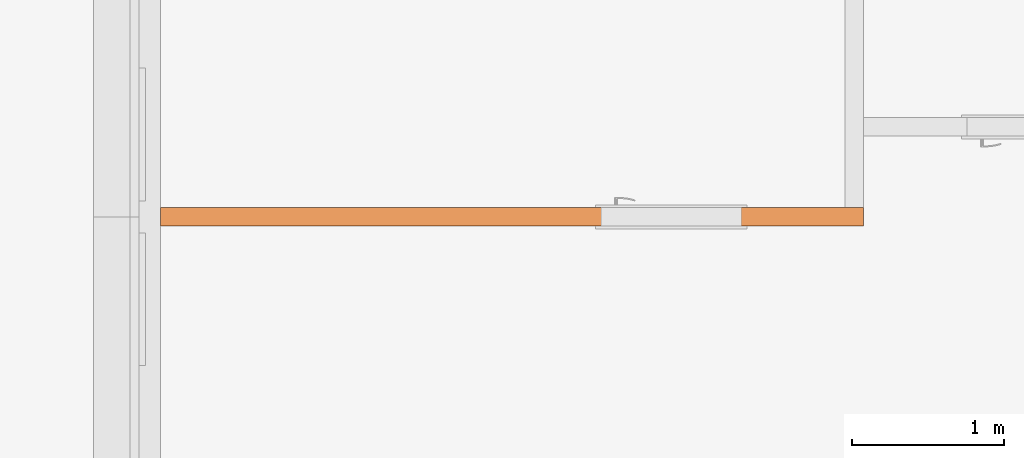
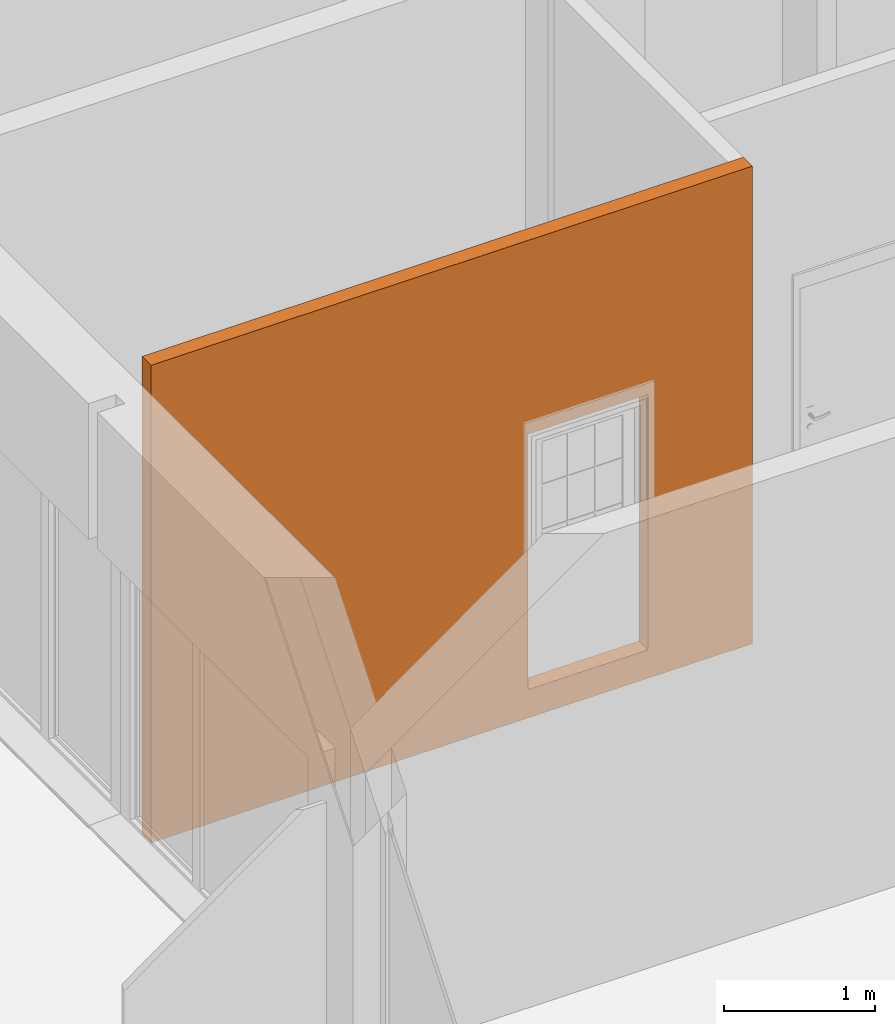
# One storey, part 20 of 46: 1 proxy, 1 opening.
"""IFC2X3 building model written with IfcOpenShell, lengths in millimetres."""

import ifcopenshell
import ifcopenshell.guid

model = None  # the IFC model being written
_history = None  # IfcOwnerHistory: only IFC2X3 demands one
_inside = {}  # id of a spatial element -> (the spatial element, [elements in it])
_under = {}  # id of a project, library or spatial element -> (it, [spatial elements below it])
_declared = {}  # id of a project -> (the project, [libraries it declares])
_typed = {}  # id of a type object -> (the type object, [elements of that type])
_made_of = {}  # id of a material, layer set ... -> (it, [elements and type objects made of it])


def new_model(schema):
    """Start an empty IFC model of exactly this schema.

    Asked for "IFC4X3", IfcOpenShell would pick the latest addendum, in which some entities
    have other attributes; the version numbers below select the first issue.
    IFC2X3 requires an IfcOwnerHistory on every rooted entity: one is made here for all.
    """
    global model, _history
    if schema == "IFC4X3":
        model = ifcopenshell.file(schema_version=(4, 3, 0, 0))
    else:
        model = ifcopenshell.file(schema=schema)
    _inside.clear()
    _under.clear()
    _declared.clear()
    _typed.clear()
    _made_of.clear()
    _history = None
    if model.schema == "IFC2X3":
        org = make("IfcOrganization", Name="unknown")
        user = make(
            "IfcPersonAndOrganization",
            ThePerson=make("IfcPerson", FamilyName="unknown"),
            TheOrganization=org,
        )
        app = make(
            "IfcApplication",
            ApplicationDeveloper=org,
            Version="unknown",
            ApplicationFullName="unknown",
            ApplicationIdentifier="unknown",
        )
        _history = make(
            "IfcOwnerHistory",
            OwningUser=user,
            OwningApplication=app,
            ChangeAction="ADDED",
            CreationDate=0,
        )
    return model


def make(cls, **values):
    """One entity of the class cls with the attributes given. An attribute that is None is left unset."""
    return model.create_entity(
        cls, **{name: value for name, value in values.items() if value is not None}
    )


def entity(cls, *values):
    """Any entity or typed value of the class cls, its attributes in the order of the schema. None: left unset."""
    e = model.create_entity(cls)
    for i, value in enumerate(values):
        if value is not None:
            e[i] = value
    return e


def rooted(cls, **values):
    """An entity with a GlobalId (a new one), such as an element, a storey or a relation."""
    return make(cls, GlobalId=ifcopenshell.guid.new(), OwnerHistory=_history, **values)


def si_unit(unit_type, name, prefix=None):
    """IfcSIUnit, for example si_unit("LENGTHUNIT", "METRE", prefix="MILLI")."""
    return make("IfcSIUnit", UnitType=unit_type, Prefix=prefix, Name=name)


def converted_unit(unit_type, name, factor, base, dimensions=None, offset=None):
    """IfcConversionBasedUnit, such as the inch: factor (a typed value) times the base unit."""
    return make(
        "IfcConversionBasedUnit"
        if offset is None
        else "IfcConversionBasedUnitWithOffset",
        ConversionOffset=offset,
        Dimensions=None
        if dimensions is None
        else entity("IfcDimensionalExponents", *dimensions),
        UnitType=unit_type,
        Name=name,
        ConversionFactor=make(
            "IfcMeasureWithUnit", ValueComponent=factor, UnitComponent=base
        ),
    )


def derived_unit(unit_type, elements):
    """IfcDerivedUnit: a product of units, each with its exponent."""
    return make(
        "IfcDerivedUnit",
        Elements=[
            make("IfcDerivedUnitElement", Unit=unit, Exponent=power)
            for unit, power in elements
        ],
        UnitType=unit_type,
    )


def money_unit(currency):
    """IfcMonetaryUnit."""
    return make("IfcMonetaryUnit", Currency=currency)


def assignment(units):
    """IfcUnitAssignment: the units of a project."""
    return None if units is None else make("IfcUnitAssignment", Units=units)


def point(xyz):
    """IfcCartesianPoint."""
    return None if xyz is None else make("IfcCartesianPoint", Coordinates=xyz)


def direction(xyz):
    """IfcDirection."""
    return None if xyz is None else make("IfcDirection", DirectionRatios=xyz)


def frame(location, z_axis=None, x_axis=None):
    """IfcAxis2Placement3D, a coordinate frame: its origin and axes. An axis left out is left unset."""
    return make(
        "IfcAxis2Placement3D",
        Location=point(location),
        Axis=direction(z_axis),
        RefDirection=direction(x_axis),
    )


def frame_2d(location, x_axis=None):
    """IfcAxis2Placement2D, a coordinate frame in the plane: its origin and x axis."""
    return make(
        "IfcAxis2Placement2D", Location=point(location), RefDirection=direction(x_axis)
    )


def origin_with_axes():
    """The frame at (0, 0, 0) with the z axis (0, 0, 1) and the x axis (1, 0, 0) written out."""
    return frame((0.0, 0.0, 0.0), z_axis=(0.0, 0.0, 1.0), x_axis=(1.0, 0.0, 0.0))


def origin_2d_with_axis():
    """The frame at (0, 0) in the plane with the x axis (1, 0) written out."""
    return frame_2d((0.0, 0.0), x_axis=(1.0, 0.0))


def place(relative_to, where):
    """IfcLocalPlacement: puts the frame where relative to a parent placement (None: the world)."""
    return make(
        "IfcLocalPlacement", PlacementRelTo=relative_to, RelativePlacement=where
    )


def context(
    kind, dimensions, precision=None, world=None, true_north=None, identifier=None
):
    """IfcGeometricRepresentationContext, for example the 3D "Model" context."""
    return make(
        "IfcGeometricRepresentationContext",
        ContextIdentifier=identifier,
        ContextType=kind,
        CoordinateSpaceDimension=dimensions,
        Precision=precision,
        WorldCoordinateSystem=world,
        TrueNorth=true_north,
    )


def subcontext(parent, identifier, kind, view, scale=None):
    """IfcGeometricRepresentationSubContext, for example "Body" below "Model"."""
    return make(
        "IfcGeometricRepresentationSubContext",
        ContextIdentifier=identifier,
        ContextType=kind,
        ParentContext=parent,
        TargetScale=scale,
        TargetView=view,
    )


def project(units=None, contexts=None):
    """IfcProject with its units and contexts."""
    return rooted(
        "IfcProject",
        Name="project",
        RepresentationContexts=contexts,
        UnitsInContext=assignment(units),
    )


def spatial(cls, under=None, at=None, **own):
    """A site, building, storey or space (cls), placed at a placement, below another one or the project."""
    s = rooted(cls, ObjectPlacement=at, **own)
    if under is not None:
        _under.setdefault(under.id(), (under, []))[1].append(s)
    return s


def profile(cls, at=None, kind="AREA", **sizes):
    """A parametric profile (cls). Its sizes go by their IFC names, for example OverallWidth=200.0."""
    return make(cls, ProfileType=kind, Position=at, **sizes)


def rectangle(**sizes):
    """IfcRectangleProfileDef."""
    return profile("IfcRectangleProfileDef", **sizes)


def extrude(swept, where, along, depth):
    """IfcExtrudedAreaSolid: the profile swept, set in the frame where, extruded along a direction by depth."""
    return make(
        "IfcExtrudedAreaSolid",
        SweptArea=swept,
        Position=where,
        ExtrudedDirection=direction(along),
        Depth=depth,
    )


def faces_of(points, faces, orient=None, outer=None):
    """IfcFace entities. A face is a list of loops; a loop is a list of indices into points, from 0.

    orient and outer hold one flag for each loop. By default every Orientation is true, the
    first loop of a face is its IfcFaceOuterBound and the others are IfcFaceBound.
    """
    made = []
    for i, loops in enumerate(faces):
        bounds = []
        for j, loop in enumerate(loops):
            is_outer = j == 0 if outer is None else outer[i][j]
            bounds.append(
                make(
                    "IfcFaceOuterBound" if is_outer else "IfcFaceBound",
                    Bound=make("IfcPolyLoop", Polygon=[points[k] for k in loop]),
                    Orientation=True if orient is None else orient[i][j],
                )
            )
        made.append(make("IfcFace", Bounds=bounds))
    return made


def faceted_brep(points, faces, orient=None, outer=None, voids=None):
    """IfcFacetedBrep: a solid bounded by flat faces; with voids (closed shells), ...WithVoids."""
    shared = [point(p) for p in points]
    hull = make("IfcClosedShell", CfsFaces=faces_of(shared, faces, orient, outer))
    if voids is None:
        return make("IfcFacetedBrep", Outer=hull)
    return make(
        "IfcFacetedBrepWithVoids",
        Outer=hull,
        Voids=[
            make(cls, CfsFaces=faces_of(shared, fs, o, b)) for cls, fs, o, b in voids
        ],
    )


def shape(context_of_items, identifier, shape_type, items):
    """IfcShapeRepresentation: the items that make up one representation, for example the "Body"."""
    return make(
        "IfcShapeRepresentation",
        ContextOfItems=context_of_items,
        RepresentationIdentifier=identifier,
        RepresentationType=shape_type,
        Items=items,
    )


def material(Name=None, Category=None):
    """IfcMaterial."""
    return make("IfcMaterial", Name=Name, Category=Category)


def made_of(thing, what):
    """Note that an element or type object is made of a material, layer set ...; save() writes the relation."""
    if what is not None:
        _made_of.setdefault(what.id(), (what, []))[1].append(thing)
    return thing


def type_object(cls, material=None, **own):
    """A type object (cls), such as IfcWallType, which elements share."""
    return made_of(rooted(cls, **own), material)


def element(
    cls,
    number,
    at=None,
    inside=None,
    cuts=None,
    type_object=None,
    material=None,
    context=None,
    identifier="Body",
    shape_type=None,
    held_by="IfcProductDefinitionShape",
    body=None,
    shapes=None,
    **own,
):
    """One element of the class cls, such as IfcWall. Its Tag is "e" and its number.

    at: its placement. inside: the storey or other place that contains it. cuts: it is an
    opening in that element (IfcRelVoidsElement). A single representation is given by context,
    identifier, shape_type and body (its items); several are given by shapes. held_by: the class
    of the entity that holds the representations. save() writes the other relations.
    """
    e = rooted(cls, Tag="e%d" % number, ObjectPlacement=at, **own)
    if body is not None:
        shapes = [shape(context, identifier, shape_type, body)]
    if shapes is not None:
        e.Representation = make(held_by, Representations=shapes)
    if inside is not None:
        _inside.setdefault(inside.id(), (inside, []))[1].append(e)
    if cuts is not None:
        rooted(
            "IfcRelVoidsElement", RelatingBuildingElement=cuts, RelatedOpeningElement=e
        )
    if type_object is not None:
        _typed.setdefault(type_object.id(), (type_object, []))[1].append(e)
    return made_of(e, material)


def aggregate(whole, parts):
    """IfcRelAggregates: a whole, such as a stair, and the parts it consists of."""
    return rooted("IfcRelAggregates", RelatingObject=whole, RelatedObjects=parts)


def save(model, path):
    """Write the relations noted so far, then the file.

    IfcRelAggregates (storeys below a building ...), IfcRelContainedInSpatialStructure (elements
    in a storey), IfcRelDefinesByType, IfcRelAssociatesMaterial and IfcRelDeclares: one each for
    every whole, place, type object, material and project.
    """
    for whole, parts in _under.values():
        aggregate(whole, parts)
    for where, things in _inside.values():
        rooted(
            "IfcRelContainedInSpatialStructure",
            RelatedElements=things,
            RelatingStructure=where,
        )
    for kind, things in _typed.values():
        rooted("IfcRelDefinesByType", RelatedObjects=things, RelatingType=kind)
    for what, things in _made_of.values():
        rooted("IfcRelAssociatesMaterial", RelatedObjects=things, RelatingMaterial=what)
    for by, libraries in _declared.values():
        rooted("IfcRelDeclares", RelatingContext=by, RelatedDefinitions=libraries)
    model.write(path)


model = new_model("IFC2X3")

# Units and contexts
model_context = context("Model", 3, precision=0.01, world=origin_with_axes(), true_north=direction((0.34421633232, 0.938890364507)))
body_context = subcontext(model_context, "Body", "Model", "MODEL_VIEW")
ifc_project = project(units=[si_unit("LENGTHUNIT", "METRE", prefix="MILLI"), si_unit("AREAUNIT", "SQUARE_METRE"), si_unit("VOLUMEUNIT", "CUBIC_METRE"), converted_unit("PLANEANGLEUNIT", "DEGREE", entity("IfcPlaneAngleMeasure", 0.0174532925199), si_unit("PLANEANGLEUNIT", "RADIAN"), dimensions=[0, 0, 0, 0, 0, 0, 0]), si_unit("SOLIDANGLEUNIT", "STERADIAN"), money_unit("USD"), converted_unit("TIMEUNIT", "Year", entity("IfcTimeMeasure", 31556926.0), si_unit("TIMEUNIT", "SECOND"), dimensions=[0, 0, 1, 0, 0, 0, 0]), si_unit("MASSUNIT", "GRAM", prefix="KILO"), si_unit("THERMODYNAMICTEMPERATUREUNIT", "DEGREE_CELSIUS"), si_unit("LUMINOUSINTENSITYUNIT", "LUMEN"), si_unit("ENERGYUNIT", "JOULE", prefix="MEGA"), derived_unit("THERMALCONDUCTANCEUNIT", [(si_unit("POWERUNIT", "WATT"), 1), (si_unit("LENGTHUNIT", "METRE"), -1), (si_unit("THERMODYNAMICTEMPERATUREUNIT", "KELVIN"), -1)]), derived_unit("SPECIFICHEATCAPACITYUNIT", [(si_unit("ENERGYUNIT", "JOULE"), 1), (si_unit("MASSUNIT", "GRAM", prefix="KILO"), -1), (si_unit("THERMODYNAMICTEMPERATUREUNIT", "KELVIN"), -1)]), derived_unit("MASSDENSITYUNIT", [(si_unit("MASSUNIT", "GRAM", prefix="KILO"), 1), (si_unit("VOLUMEUNIT", "CUBIC_METRE"), -1)])], contexts=[model_context])

# Site, building, storey
site_placement = place(None, origin_with_axes())
site = spatial("IfcSite", under=ifc_project, at=site_placement, Name="USTRONIE MORSKIE", CompositionType="ELEMENT")
building_placement = place(site_placement, origin_with_axes())
building = spatial("IfcBuilding", under=site, at=building_placement, Name="Budynek", CompositionType="ELEMENT")
storey_placement = place(building_placement, origin_with_axes())
storey = spatial("IfcBuildingStorey", under=building, at=storey_placement, Name="PARTER", CompositionType="ELEMENT", Elevation=0.0)

# Proxy, opening
ifc_material = material(Name="Bloczki silikatowe")
building_element_proxy_type = type_object("IfcBuildingElementProxyType", Name="Bloczki silikatowe 120", PredefinedType="NOTDEFINED")
proxy_placement = place(storey_placement, frame((354717.920919, 735951.198359, -230.0), z_axis=(0.0, 0.0, 1.0), x_axis=(-1.0, 0.0, 0.0)))
proxy = element("IfcBuildingElementProxy", 1, at=proxy_placement, inside=storey, type_object=building_element_proxy_type, material=ifc_material, Name="SW-04", context=body_context, shape_type="Brep", body=[
    faceted_brep([(-60.0, -59.9999999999, 0.0), (4550.0, -59.9999999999, 0.0), (4550.0, -59.9999999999, 3870.0), (-60.0, -59.9999999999, 3870.0), (-60.0, 59.9999999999, 0.0), (4550.0, 59.9999999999, 0.0), (4550.0, 59.9999999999, 3870.0), (-60.0, 59.9999999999, 3870.0)], [[[0, 1, 2, 3]], [[4, 5, 1, 0]], [[2, 1, 5, 6]], [[3, 2, 6, 7]], [[3, 7, 4, 0]], [[6, 5, 4, 7]]]),
])
opening_placement = place(proxy_placement, frame((1200.0, 0.0, 230.0), z_axis=(0.0, 0.0, 1.0), x_axis=(1.0, 0.0, 0.0)))
element("IfcOpeningElement", 2, at=opening_placement, cuts=proxy, Name="Dw.3", context=body_context, shape_type="SweptSolid", body=[
    extrude(rectangle(XDim=920.0, YDim=2070.0, at=origin_2d_with_axis()), frame((0.0, -120.0, 1035.0), z_axis=(0.0, 1.0, 0.0), x_axis=(-1.0, 0.0, 0.0)), (0.0, 0.0, 1.0), 360.0),
    extrude(rectangle(XDim=994.0, YDim=2177.0, at=origin_2d_with_axis()), frame((0.0, -59.9999999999, 1088.5), z_axis=(0.0, 1.0, 0.0), x_axis=(-1.0, 0.0, 0.0)), (0.0, 0.0, -1.0), 120.0),
    extrude(rectangle(XDim=994.0, YDim=2177.0, at=origin_2d_with_axis()), frame((0.0, 60.0000000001, 1088.5), z_axis=(0.0, -1.0, 0.0), x_axis=(-1.0, 0.0, 0.0)), (0.0, 0.0, -1.0), 120.0),
])

save(model, "model.ifc")
